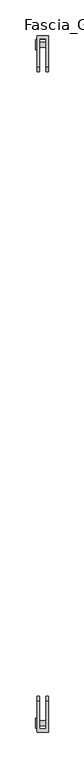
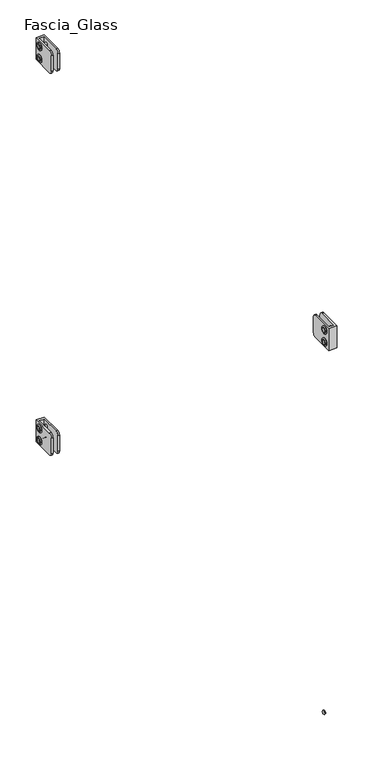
"""IFC4 building model written with IfcOpenShell, lengths in millimetres: railing geometry, Baluster-Excess-Fill-Straight-Panel-VIVA : Fascia_Glass."""

from ifc_helpers import new_model, si_unit, point, frame, origin, place, context, project, spatial, polyline, circle_curve, ellipse_curve, trimmed, outline, extrude, source, transform, mapped, element, save
from ifc_brep_helpers import plane_surface, cylinder_surface, revolved_surface, advanced_brep


def fascia_glass_efceab72(model_context):
    return source(origin(), model_context, "Body", "SolidModel", [
        extrude(outline(polyline([(17.3185433, 917.178125), (15.2715791, 913.6326791), (11.1776508, 913.6326791), (9.1306867, 917.178125), (11.1776508, 920.7235709), (15.2715791, 920.7235709), (17.3185433, 917.178125)])), frame((21.7024185, 0.0, 0.0), z_axis=(1.0, 0.0, 0.0), x_axis=(0.0, 1.0, 0.0)), (0.0, 0.0, 1.0), 1.4969696),
        advanced_brep(
        [(36.7665, 16.7700609, 917.178125), (36.7665, 9.6791691, 917.178125), (24.0665, 9.6791691, 917.178125), (24.0665, 16.7700609, 917.178125), (24.0665, 5.8168259, 917.178125), (24.0665, 20.6324041, 917.178125), (23.199388, 14.8806904, 917.178125), (23.199388, 11.5685396, 917.178125), (36.7665, 11.5685396, 917.178125), (36.7665, 14.8806904, 917.178125), (23.2316551, 20.6324041, 917.178125), (23.2316551, 5.8168259, 917.178125), (21.9503831, 7.0980979, 917.178125), (21.9503831, 19.351132, 917.178125), (21.9503831, 8.9260194, 917.178125), (21.9503831, 17.5232105, 917.178125), (23.199388, 8.9260194, 917.178125), (23.199388, 17.5232105, 917.178125)],
        [
            (0, 1, circle_curve(frame((36.7665, 13.224615, 917.178125), z_axis=(-1.0, 0.0, 0.0), x_axis=(0.0, -1.0, 0.0)), 3.5454459)),
            (1, 2),
            (2, 3, circle_curve(frame((24.0665, 13.224615, 917.178125), z_axis=(1.0, 0.0, 0.0), x_axis=(0.0, -1.0, 0.0)), 3.5454459)),
            (3, 0),
            (1, 0, circle_curve(frame((36.7665, 13.224615, 917.178125), z_axis=(-1.0, 0.0, 0.0), x_axis=(0.0, -1.0, 0.0)), 3.5454459)),
            (3, 2, circle_curve(frame((24.0665, 13.224615, 917.178125), z_axis=(1.0, 0.0, 0.0), x_axis=(0.0, -1.0, 0.0)), 3.5454459)),
            (2, 4),
            (4, 5, circle_curve(frame((24.0665, 13.224615, 917.178125), z_axis=(1.0, 0.0, 0.0), x_axis=(0.0, -1.0, 0.0)), 7.4077891)),
            (5, 3),
            (5, 4, circle_curve(frame((24.0665, 13.224615, 917.178125), z_axis=(1.0, 0.0, 0.0), x_axis=(0.0, -1.0, 0.0)), 7.4077891)),
            (6, 7, circle_curve(frame((23.199388, 13.224615, 917.178125), z_axis=(-1.0, 0.0, 0.0), x_axis=(0.0, -1.0, 0.0)), 1.6560754)),
            (7, 8),
            (8, 9, circle_curve(frame((36.7665, 13.224615, 917.178125), z_axis=(1.0, 0.0, 0.0), x_axis=(0.0, -1.0, 0.0)), 1.6560754)),
            (9, 6),
            (7, 6, circle_curve(frame((23.199388, 13.224615, 917.178125), z_axis=(-1.0, 0.0, 0.0), x_axis=(0.0, -1.0, 0.0)), 1.6560754)),
            (9, 8, circle_curve(frame((36.7665, 13.224615, 917.178125), z_axis=(1.0, 0.0, 0.0), x_axis=(0.0, -1.0, 0.0)), 1.6560754)),
            (10, 11, circle_curve(frame((23.2316551, 13.224615, 917.178125), z_axis=(-1.0, 0.0, 0.0), x_axis=(0.0, -1.0, 0.0)), 7.4077891)),
            (11, 12, circle_curve(frame((23.2316551, 7.0980979, 917.178125), z_axis=(0.0, 0.0, -1.0), x_axis=(0.0, -1.0, 0.0)), 1.281272)),
            (12, 13, circle_curve(frame((21.9503831, 13.224615, 917.178125), z_axis=(1.0, 0.0, 0.0), x_axis=(0.0, -1.0, 0.0)), 6.1265171)),
            (13, 10, circle_curve(frame((23.2316551, 19.351132, 917.178125), z_axis=(0.0, 0.0, -1.0), x_axis=(0.0, 1.0, 0.0)), 1.281272)),
            (11, 10, circle_curve(frame((23.2316551, 13.224615, 917.178125), z_axis=(-1.0, 0.0, 0.0), x_axis=(0.0, -1.0, 0.0)), 7.4077891)),
            (13, 12, circle_curve(frame((21.9503831, 13.224615, 917.178125), z_axis=(1.0, 0.0, 0.0), x_axis=(0.0, -1.0, 0.0)), 6.1265171)),
            (12, 14),
            (14, 15, circle_curve(frame((21.9503831, 13.224615, 917.178125), z_axis=(1.0, 0.0, 0.0), x_axis=(0.0, -1.0, 0.0)), 4.2985955)),
            (15, 13),
            (15, 14, circle_curve(frame((21.9503831, 13.224615, 917.178125), z_axis=(1.0, 0.0, 0.0), x_axis=(0.0, -1.0, 0.0)), 4.2985955)),
            (4, 11),
            (10, 5),
            (8, 1),
            (0, 9),
            (14, 16),
            (16, 17, circle_curve(frame((23.199388, 13.224615, 917.178125), z_axis=(1.0, 0.0, 0.0), x_axis=(0.0, -1.0, 0.0)), 4.2985955)),
            (17, 15),
            (17, 16, circle_curve(frame((23.199388, 13.224615, 917.178125), z_axis=(1.0, 0.0, 0.0), x_axis=(0.0, -1.0, 0.0)), 4.2985955)),
            (16, 7),
            (6, 17),
        ],
        [
            cylinder_surface(frame((27.5632331, 13.224615, 917.178125), z_axis=(1.0, 0.0, 0.0), x_axis=(0.0, -1.0, 0.0)), 3.5454459),
            plane_surface(frame((24.0665, 13.224615, 917.178125), z_axis=(1.0, 0.0, 0.0), x_axis=(0.0, -1.0, 0.0))),
            revolved_surface(polyline([(36.7665, 11.5685396, 917.178125), (23.199388, 11.5685396, 917.178125)]), (27.5632331, 13.224615, 917.178125), (1.0, 0.0, 0.0)),
            revolved_surface(trimmed(ellipse_curve(frame((23.2316551, 7.0980979, 917.178125), z_axis=(0.0, 0.0, 1.0), x_axis=(0.0, -1.0, 0.0)), 1.281272, 1.281272), [point((21.9503831, 7.0980979, 917.178125))], [point((23.2316551, 5.8168259, 917.178125))], True, "CARTESIAN"), (27.5632331, 13.224615, 917.178125), (1.0, 0.0, 0.0)),
            plane_surface(frame((21.9503831, 13.224615, 917.178125), z_axis=(-1.0, 0.0, 0.0), x_axis=(0.0, -1.0, 0.0))),
            cylinder_surface(frame((27.5632331, 13.224615, 917.178125), z_axis=(1.0, 0.0, 0.0), x_axis=(0.0, -1.0, 0.0)), 7.4077891),
            plane_surface(frame((36.7665, 13.224615, 917.178125), z_axis=(1.0, 0.0, 0.0), x_axis=(0.0, -1.0, 0.0))),
            revolved_surface(polyline([(23.199388, 8.926019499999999, 917.178125), (21.9503831, 8.926019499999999, 917.178125)]), (27.5632331, 13.224615, 917.178125), (1.0, 0.0, 0.0)),
            plane_surface(frame((23.199388, 13.224615, 917.178125), z_axis=(-1.0, 0.0, 0.0), x_axis=(0.0, -1.0, 0.0))),
        ],
        [
            (0, [[1, 2, 3, 4]]),
            (0, [[5, -4, 6, -2]]),
            (1, [[-3, 7, 8, 9]]),
            (1, [[-6, -9, 10, -7]]),
            (2, [[11, 12, 13, 14]]),
            (2, [[15, -14, 16, -12]]),
            (3, [[17, 18, 19, 20]]),
            (3, [[21, -20, 22, -18]]),
            (4, [[-19, 23, 24, 25]]),
            (4, [[-22, -25, 26, -23]]),
            (5, [[-8, 27, -17, 28]]),
            (5, [[-10, -28, -21, -27]]),
            (6, [[-13, 29, -1, 30]]),
            (6, [[-16, -30, -5, -29]]),
            (7, [[-24, 31, 32, 33]]),
            (7, [[-26, -33, 34, -31]]),
            (8, [[-32, 35, -11, 36]]),
            (8, [[-34, -36, -15, -35]]),
        ],
    ),
        advanced_brep(
        [(36.7665, 16.7700609, 892.571875), (36.7665, 9.6791691, 892.571875), (24.0665, 9.6791691, 892.571875), (24.0665, 16.7700609, 892.571875), (24.0665, 5.8168259, 892.571875), (24.0665, 20.6324041, 892.571875), (23.199388, 14.8806904, 892.571875), (23.199388, 11.5685396, 892.571875), (36.7665, 11.5685396, 892.571875), (36.7665, 14.8806904, 892.571875), (23.2316551, 20.6324041, 892.571875), (23.2316551, 5.8168259, 892.571875), (21.9503831, 7.0980979, 892.571875), (21.9503831, 19.351132, 892.571875), (21.9503831, 8.9260194, 892.571875), (21.9503831, 17.5232105, 892.571875), (23.199388, 8.9260194, 892.571875), (23.199388, 17.5232105, 892.571875)],
        [
            (0, 1, circle_curve(frame((36.7665, 13.224615, 892.571875), z_axis=(-1.0, 0.0, 0.0), x_axis=(0.0, -1.0, 0.0)), 3.5454459)),
            (1, 2),
            (2, 3, circle_curve(frame((24.0665, 13.224615, 892.571875), z_axis=(1.0, 0.0, 0.0), x_axis=(0.0, -1.0, 0.0)), 3.5454459)),
            (3, 0),
            (1, 0, circle_curve(frame((36.7665, 13.224615, 892.571875), z_axis=(-1.0, 0.0, 0.0), x_axis=(0.0, -1.0, 0.0)), 3.5454459)),
            (3, 2, circle_curve(frame((24.0665, 13.224615, 892.571875), z_axis=(1.0, 0.0, 0.0), x_axis=(0.0, -1.0, 0.0)), 3.5454459)),
            (2, 4),
            (4, 5, circle_curve(frame((24.0665, 13.224615, 892.571875), z_axis=(1.0, 0.0, 0.0), x_axis=(0.0, -1.0, 0.0)), 7.4077891)),
            (5, 3),
            (5, 4, circle_curve(frame((24.0665, 13.224615, 892.571875), z_axis=(1.0, 0.0, 0.0), x_axis=(0.0, -1.0, 0.0)), 7.4077891)),
            (6, 7, circle_curve(frame((23.199388, 13.224615, 892.571875), z_axis=(-1.0, 0.0, 0.0), x_axis=(0.0, -1.0, 0.0)), 1.6560754)),
            (7, 8),
            (8, 9, circle_curve(frame((36.7665, 13.224615, 892.571875), z_axis=(1.0, 0.0, 0.0), x_axis=(0.0, -1.0, 0.0)), 1.6560754)),
            (9, 6),
            (7, 6, circle_curve(frame((23.199388, 13.224615, 892.571875), z_axis=(-1.0, 0.0, 0.0), x_axis=(0.0, -1.0, 0.0)), 1.6560754)),
            (9, 8, circle_curve(frame((36.7665, 13.224615, 892.571875), z_axis=(1.0, 0.0, 0.0), x_axis=(0.0, -1.0, 0.0)), 1.6560754)),
            (10, 11, circle_curve(frame((23.2316551, 13.224615, 892.571875), z_axis=(-1.0, 0.0, 0.0), x_axis=(0.0, -1.0, 0.0)), 7.4077891)),
            (11, 12, circle_curve(frame((23.2316551, 7.0980979, 892.571875), z_axis=(0.0, 0.0, -1.0), x_axis=(0.0, -1.0, 0.0)), 1.281272)),
            (12, 13, circle_curve(frame((21.9503831, 13.224615, 892.571875), z_axis=(1.0, 0.0, 0.0), x_axis=(0.0, -1.0, 0.0)), 6.1265171)),
            (13, 10, circle_curve(frame((23.2316551, 19.351132, 892.571875), z_axis=(0.0, 0.0, -1.0), x_axis=(0.0, 1.0, 0.0)), 1.281272)),
            (11, 10, circle_curve(frame((23.2316551, 13.224615, 892.571875), z_axis=(-1.0, 0.0, 0.0), x_axis=(0.0, -1.0, 0.0)), 7.4077891)),
            (13, 12, circle_curve(frame((21.9503831, 13.224615, 892.571875), z_axis=(1.0, 0.0, 0.0), x_axis=(0.0, -1.0, 0.0)), 6.1265171)),
            (12, 14),
            (14, 15, circle_curve(frame((21.9503831, 13.224615, 892.571875), z_axis=(1.0, 0.0, 0.0), x_axis=(0.0, -1.0, 0.0)), 4.2985955)),
            (15, 13),
            (15, 14, circle_curve(frame((21.9503831, 13.224615, 892.571875), z_axis=(1.0, 0.0, 0.0), x_axis=(0.0, -1.0, 0.0)), 4.2985955)),
            (8, 1),
            (0, 9),
            (4, 11),
            (10, 5),
            (14, 16),
            (16, 17, circle_curve(frame((23.199388, 13.224615, 892.571875), z_axis=(1.0, 0.0, 0.0), x_axis=(0.0, -1.0, 0.0)), 4.2985955)),
            (17, 15),
            (17, 16, circle_curve(frame((23.199388, 13.224615, 892.571875), z_axis=(1.0, 0.0, 0.0), x_axis=(0.0, -1.0, 0.0)), 4.2985955)),
            (16, 7),
            (6, 17),
        ],
        [
            cylinder_surface(frame((27.5632331, 13.224615, 892.571875), z_axis=(1.0, 0.0, 0.0), x_axis=(0.0, -1.0, 0.0)), 3.5454459),
            plane_surface(frame((24.0665, 13.224615, 892.571875), z_axis=(1.0, 0.0, 0.0), x_axis=(0.0, -1.0, 0.0))),
            revolved_surface(polyline([(36.7665, 11.5685396, 892.571875), (23.199388, 11.5685396, 892.571875)]), (27.5632331, 13.224615, 892.571875), (1.0, 0.0, 0.0)),
            revolved_surface(trimmed(ellipse_curve(frame((23.2316551, 7.0980979, 892.571875), z_axis=(0.0, 0.0, 1.0), x_axis=(0.0, -1.0, 0.0)), 1.281272, 1.281272), [point((21.9503831, 7.0980979, 892.571875))], [point((23.2316551, 5.8168259, 892.571875))], True, "CARTESIAN"), (27.5632331, 13.224615, 892.571875), (1.0, 0.0, 0.0)),
            plane_surface(frame((21.9503831, 13.224615, 892.571875), z_axis=(-1.0, 0.0, 0.0), x_axis=(0.0, -1.0, 0.0))),
            plane_surface(frame((36.7665, 13.224615, 892.571875), z_axis=(1.0, 0.0, 0.0), x_axis=(0.0, -1.0, 0.0))),
            cylinder_surface(frame((27.5632331, 13.224615, 892.571875), z_axis=(1.0, 0.0, 0.0), x_axis=(0.0, -1.0, 0.0)), 7.4077891),
            revolved_surface(polyline([(23.199388, 8.926019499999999, 892.571875), (21.9503831, 8.926019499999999, 892.571875)]), (27.5632331, 13.224615, 892.571875), (1.0, 0.0, 0.0)),
            plane_surface(frame((23.199388, 13.224615, 892.571875), z_axis=(-1.0, 0.0, 0.0), x_axis=(0.0, -1.0, 0.0))),
        ],
        [
            (0, [[1, 2, 3, 4]]),
            (0, [[5, -4, 6, -2]]),
            (1, [[-3, 7, 8, 9]]),
            (1, [[-6, -9, 10, -7]]),
            (2, [[11, 12, 13, 14]]),
            (2, [[15, -14, 16, -12]]),
            (3, [[17, 18, 19, 20]]),
            (3, [[21, -20, 22, -18]]),
            (4, [[-19, 23, 24, 25]]),
            (4, [[-22, -25, 26, -23]]),
            (5, [[-13, 27, -1, 28]]),
            (5, [[-16, -28, -5, -27]]),
            (6, [[-8, 29, -17, 30]]),
            (6, [[-10, -30, -21, -29]]),
            (7, [[-24, 31, 32, 33]]),
            (7, [[-26, -33, 34, -31]]),
            (8, [[-32, 35, -11, 36]]),
            (8, [[-34, -36, -15, -35]]),
        ],
    ),
        extrude(outline(polyline([(17.3185433, 892.571875), (15.2715791, 889.0264291), (11.1776508, 889.0264291), (9.1306867, 892.571875), (11.1776508, 896.1173209), (15.2715791, 896.1173209), (17.3185433, 892.571875)])), frame((21.7024185, 0.0, 0.0), z_axis=(1.0, 0.0, 0.0), x_axis=(0.0, 1.0, 0.0)), (0.0, 0.0, 1.0), 1.4969696),
        advanced_brep(
        [(24.0665, 25.8579597, 927.1), (24.0665, 25.8579597, 882.65), (24.0665, -18.5920403, 882.65), (24.0665, -24.9420403, 889.0), (24.0665, -24.9420403, 920.75), (24.0665, -18.5920403, 927.1), (39.9415, 25.8579597, 927.1), (39.9415, -18.5920403, 927.1), (39.9415, -24.9420403, 920.75), (39.9415, -24.9420403, 889.0), (39.9415, -18.5920403, 882.65), (39.9415, 25.8579597, 882.65), (36.7665, -18.5920403, 882.65), (36.7665, 21.1398793, 882.65), (27.2415, 21.1398793, 882.65), (27.2415, -18.5920403, 882.65), (36.7665, 21.1398793, 927.1), (27.2415, 21.1398793, 927.1), (27.2415, -18.5920403, 927.1), (27.2415, -24.9420403, 920.75), (27.2415, -24.9420403, 889.0), (36.7665, -24.9420403, 889.0), (36.7665, -24.9420403, 920.75), (36.7665, -18.5920403, 927.1)],
        [
            (0, 1),
            (1, 2),
            (2, 3, circle_curve(frame((24.0665, -18.5920403, 889.0), z_axis=(-1.0, 0.0, 0.0), x_axis=(0.0, -1.0, 0.0)), 6.35)),
            (3, 4),
            (4, 5, circle_curve(frame((24.0665, -18.5920403, 920.75), z_axis=(-1.0, 0.0, 0.0), x_axis=(0.0, -1.0, 0.0)), 6.35)),
            (5, 0),
            (6, 7),
            (7, 8, circle_curve(frame((39.9415, -18.5920403, 920.75), z_axis=(1.0, 0.0, 0.0), x_axis=(0.0, -1.0, 0.0)), 6.35)),
            (8, 9),
            (9, 10, circle_curve(frame((39.9415, -18.5920403, 889.0), z_axis=(1.0, 0.0, 0.0), x_axis=(0.0, -1.0, 0.0)), 6.35)),
            (10, 11),
            (11, 6),
            (0, 6),
            (11, 1),
            (10, 12),
            (12, 13),
            (13, 14),
            (14, 15),
            (15, 2),
            (13, 16),
            (16, 17),
            (17, 14),
            (17, 18),
            (18, 19, circle_curve(frame((27.2415, -18.5920403, 920.75), z_axis=(1.0, 0.0, 0.0), x_axis=(0.0, -1.0, 0.0)), 6.35)),
            (19, 20),
            (20, 15, circle_curve(frame((27.2415, -18.5920403, 889.0), z_axis=(1.0, 0.0, 0.0), x_axis=(0.0, -1.0, 0.0)), 6.35)),
            (12, 21, circle_curve(frame((36.7665, -18.5920403, 889.0), z_axis=(-1.0, 0.0, 0.0), x_axis=(0.0, -1.0, 0.0)), 6.35)),
            (21, 22),
            (22, 23, circle_curve(frame((36.7665, -18.5920403, 920.75), z_axis=(-1.0, 0.0, 0.0), x_axis=(0.0, -1.0, 0.0)), 6.35)),
            (23, 16),
            (20, 3),
            (9, 21),
            (19, 4),
            (8, 22),
            (18, 5),
            (7, 23),
        ],
        [
            plane_surface(frame((24.0665, 25.8579597, 882.65), z_axis=(-1.0, 0.0, 0.0), x_axis=(0.0, 0.0, -1.0))),
            plane_surface(frame((39.9415, 25.8579597, 882.65), z_axis=(1.0, 0.0, 0.0), x_axis=(0.0, 0.0, 1.0))),
            plane_surface(frame((24.0665, 25.8579597, 927.1), z_axis=(0.0, 1.0, 0.0), x_axis=(1.0, 0.0, 0.0))),
            plane_surface(frame((24.0665, 25.8579597, 882.65), z_axis=(0.0, 0.0, -1.0), x_axis=(1.0, 0.0, 0.0))),
            plane_surface(frame((36.7665, 21.1398793, 939.8), z_axis=(0.0, -1.0, 0.0), x_axis=(0.0, 0.0, -1.0))),
            plane_surface(frame((27.2415, 21.1398793, 939.8), z_axis=(1.0, 0.0, 0.0), x_axis=(0.0, 0.0, -1.0))),
            plane_surface(frame((36.7665, -37.6420403, 939.8), z_axis=(-1.0, 0.0, 0.0), x_axis=(0.0, 0.0, -1.0))),
            cylinder_surface(frame((39.9415, -18.5920403, 889.0), z_axis=(-1.0, 0.0, 0.0), x_axis=(0.0, -1.0, 0.0)), 6.35),
            plane_surface(frame((24.0665, -24.9420403, 889.0), z_axis=(0.0, -1.0, 0.0), x_axis=(1.0, 0.0, 0.0))),
            cylinder_surface(frame((39.9415, -18.5920403, 920.75), z_axis=(-1.0, 0.0, 0.0), x_axis=(0.0, -1.0, 0.0)), 6.35),
            plane_surface(frame((24.0665, -18.5920403, 927.1), z_axis=(0.0, 0.0, 1.0), x_axis=(1.0, 0.0, 0.0))),
        ],
        [
            (0, [[1, 2, 3, 4, 5, 6]]),
            (1, [[7, 8, 9, 10, 11, 12]]),
            (2, [[-1, 13, -12, 14]]),
            (3, [[-2, -14, -11, 15, 16, 17, 18, 19]]),
            (4, [[20, 21, 22, -17]]),
            (5, [[-22, 23, 24, 25, 26, -18]]),
            (6, [[-20, -16, 27, 28, 29, 30]]),
            (7, [[-3, -19, -26, 31]]),
            (7, [[-10, 32, -27, -15]]),
            (8, [[-4, -31, -25, 33]]),
            (8, [[-9, 34, -28, -32]]),
            (9, [[-5, -33, -24, 35]]),
            (9, [[-8, 36, -29, -34]]),
            (10, [[-6, -35, -23, -21, -30, -36, -7, -13]]),
        ],
    ),
        extrude(outline(polyline([(17.3185433, 138.7358896), (15.2715791, 135.1904437), (11.1776508, 135.1904437), (9.1306867, 138.7358896), (11.1776508, 142.2813355), (15.2715791, 142.2813355), (17.3185433, 138.7358896)])), frame((21.7024185, 0.0, 0.0), z_axis=(1.0, 0.0, 0.0), x_axis=(0.0, 1.0, 0.0)), (0.0, 0.0, 1.0), 1.4969696),
        advanced_brep(
        [(36.7665, 16.7700609, 138.7358896), (36.7665, 9.6791691, 138.7358896), (24.0665, 9.6791691, 138.7358896), (24.0665, 16.7700609, 138.7358896), (24.0665, 5.8168259, 138.7358896), (24.0665, 20.6324041, 138.7358896), (23.199388, 14.8806904, 138.7358896), (23.199388, 11.5685396, 138.7358896), (36.7665, 11.5685396, 138.7358896), (36.7665, 14.8806904, 138.7358896), (23.2316551, 20.6324041, 138.7358896), (23.2316551, 5.8168259, 138.7358896), (21.9503831, 7.0980979, 138.7358896), (21.9503831, 19.351132, 138.7358896), (21.9503831, 8.9260194, 138.7358896), (21.9503831, 17.5232105, 138.7358896), (23.199388, 8.9260194, 138.7358896), (23.199388, 17.5232105, 138.7358896)],
        [
            (0, 1, circle_curve(frame((36.7665, 13.224615, 138.7358896), z_axis=(-1.0, 0.0, 0.0), x_axis=(0.0, -1.0, 0.0)), 3.5454459)),
            (1, 2),
            (2, 3, circle_curve(frame((24.0665, 13.224615, 138.7358896), z_axis=(1.0, 0.0, 0.0), x_axis=(0.0, -1.0, 0.0)), 3.5454459)),
            (3, 0),
            (1, 0, circle_curve(frame((36.7665, 13.224615, 138.7358896), z_axis=(-1.0, 0.0, 0.0), x_axis=(0.0, -1.0, 0.0)), 3.5454459)),
            (3, 2, circle_curve(frame((24.0665, 13.224615, 138.7358896), z_axis=(1.0, 0.0, 0.0), x_axis=(0.0, -1.0, 0.0)), 3.5454459)),
            (2, 4),
            (4, 5, circle_curve(frame((24.0665, 13.224615, 138.7358896), z_axis=(1.0, 0.0, 0.0), x_axis=(0.0, -1.0, 0.0)), 7.4077891)),
            (5, 3),
            (5, 4, circle_curve(frame((24.0665, 13.224615, 138.7358896), z_axis=(1.0, 0.0, 0.0), x_axis=(0.0, -1.0, 0.0)), 7.4077891)),
            (6, 7, circle_curve(frame((23.199388, 13.224615, 138.7358896), z_axis=(-1.0, 0.0, 0.0), x_axis=(0.0, -1.0, 0.0)), 1.6560754)),
            (7, 8),
            (8, 9, circle_curve(frame((36.7665, 13.224615, 138.7358896), z_axis=(1.0, 0.0, 0.0), x_axis=(0.0, -1.0, 0.0)), 1.6560754)),
            (9, 6),
            (7, 6, circle_curve(frame((23.199388, 13.224615, 138.7358896), z_axis=(-1.0, 0.0, 0.0), x_axis=(0.0, -1.0, 0.0)), 1.6560754)),
            (9, 8, circle_curve(frame((36.7665, 13.224615, 138.7358896), z_axis=(1.0, 0.0, 0.0), x_axis=(0.0, -1.0, 0.0)), 1.6560754)),
            (10, 11, circle_curve(frame((23.2316551, 13.224615, 138.7358896), z_axis=(-1.0, 0.0, 0.0), x_axis=(0.0, -1.0, 0.0)), 7.4077891)),
            (11, 12, circle_curve(frame((23.2316551, 7.0980979, 138.7358896), z_axis=(0.0, 0.0, -1.0), x_axis=(0.0, -1.0, 0.0)), 1.281272)),
            (12, 13, circle_curve(frame((21.9503831, 13.224615, 138.7358896), z_axis=(1.0, 0.0, 0.0), x_axis=(0.0, -1.0, 0.0)), 6.1265171)),
            (13, 10, circle_curve(frame((23.2316551, 19.351132, 138.7358896), z_axis=(0.0, 0.0, -1.0), x_axis=(0.0, 1.0, 0.0)), 1.281272)),
            (11, 10, circle_curve(frame((23.2316551, 13.224615, 138.7358896), z_axis=(-1.0, 0.0, 0.0), x_axis=(0.0, -1.0, 0.0)), 7.4077891)),
            (13, 12, circle_curve(frame((21.9503831, 13.224615, 138.7358896), z_axis=(1.0, 0.0, 0.0), x_axis=(0.0, -1.0, 0.0)), 6.1265171)),
            (12, 14),
            (14, 15, circle_curve(frame((21.9503831, 13.224615, 138.7358896), z_axis=(1.0, 0.0, 0.0), x_axis=(0.0, -1.0, 0.0)), 4.2985955)),
            (15, 13),
            (15, 14, circle_curve(frame((21.9503831, 13.224615, 138.7358896), z_axis=(1.0, 0.0, 0.0), x_axis=(0.0, -1.0, 0.0)), 4.2985955)),
            (4, 11),
            (10, 5),
            (8, 1),
            (0, 9),
            (14, 16),
            (16, 17, circle_curve(frame((23.199388, 13.224615, 138.7358896), z_axis=(1.0, 0.0, 0.0), x_axis=(0.0, -1.0, 0.0)), 4.2985955)),
            (17, 15),
            (17, 16, circle_curve(frame((23.199388, 13.224615, 138.7358896), z_axis=(1.0, 0.0, 0.0), x_axis=(0.0, -1.0, 0.0)), 4.2985955)),
            (16, 7),
            (6, 17),
        ],
        [
            cylinder_surface(frame((27.5632331, 13.224615, 138.7358896), z_axis=(1.0, 0.0, 0.0), x_axis=(0.0, -1.0, 0.0)), 3.5454459),
            plane_surface(frame((24.0665, 13.224615, 138.7358896), z_axis=(1.0, 0.0, 0.0), x_axis=(0.0, -1.0, 0.0))),
            revolved_surface(polyline([(36.7665, 11.5685396, 138.7358896), (23.199388, 11.5685396, 138.7358896)]), (27.5632331, 13.224615, 138.7358896), (1.0, 0.0, 0.0)),
            revolved_surface(trimmed(ellipse_curve(frame((23.2316551, 7.0980979, 138.7358896), z_axis=(0.0, 0.0, 1.0), x_axis=(0.0, -1.0, 0.0)), 1.281272, 1.281272), [point((21.9503831, 7.0980979, 138.7358896))], [point((23.2316551, 5.8168259, 138.7358896))], True, "CARTESIAN"), (27.5632331, 13.224615, 138.7358896), (1.0, 0.0, 0.0)),
            plane_surface(frame((21.9503831, 13.224615, 138.7358896), z_axis=(-1.0, 0.0, 0.0), x_axis=(0.0, -1.0, 0.0))),
            cylinder_surface(frame((27.5632331, 13.224615, 138.7358896), z_axis=(1.0, 0.0, 0.0), x_axis=(0.0, -1.0, 0.0)), 7.4077891),
            plane_surface(frame((36.7665, 13.224615, 138.7358896), z_axis=(1.0, 0.0, 0.0), x_axis=(0.0, -1.0, 0.0))),
            revolved_surface(polyline([(23.199388, 8.926019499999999, 138.7358896), (21.9503831, 8.926019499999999, 138.7358896)]), (27.5632331, 13.224615, 138.7358896), (1.0, 0.0, 0.0)),
            plane_surface(frame((23.199388, 13.224615, 138.7358896), z_axis=(-1.0, 0.0, 0.0), x_axis=(0.0, -1.0, 0.0))),
        ],
        [
            (0, [[1, 2, 3, 4]]),
            (0, [[5, -4, 6, -2]]),
            (1, [[-3, 7, 8, 9]]),
            (1, [[-6, -9, 10, -7]]),
            (2, [[11, 12, 13, 14]]),
            (2, [[15, -14, 16, -12]]),
            (3, [[17, 18, 19, 20]]),
            (3, [[21, -20, 22, -18]]),
            (4, [[-19, 23, 24, 25]]),
            (4, [[-22, -25, 26, -23]]),
            (5, [[-8, 27, -17, 28]]),
            (5, [[-10, -28, -21, -27]]),
            (6, [[-13, 29, -1, 30]]),
            (6, [[-16, -30, -5, -29]]),
            (7, [[-24, 31, 32, 33]]),
            (7, [[-26, -33, 34, -31]]),
            (8, [[-32, 35, -11, 36]]),
            (8, [[-34, -36, -15, -35]]),
        ],
    ),
        advanced_brep(
        [(36.7665, 16.7700609, 114.1296396), (36.7665, 9.6791691, 114.1296396), (24.0665, 9.6791691, 114.1296396), (24.0665, 16.7700609, 114.1296396), (24.0665, 5.8168259, 114.1296396), (24.0665, 20.6324041, 114.1296396), (23.199388, 14.8806904, 114.1296396), (23.199388, 11.5685396, 114.1296396), (36.7665, 11.5685396, 114.1296396), (36.7665, 14.8806904, 114.1296396), (23.2316551, 20.6324041, 114.1296396), (23.2316551, 5.8168259, 114.1296396), (21.9503831, 7.0980979, 114.1296396), (21.9503831, 19.351132, 114.1296396), (21.9503831, 8.9260194, 114.1296396), (21.9503831, 17.5232105, 114.1296396), (23.199388, 8.9260194, 114.1296396), (23.199388, 17.5232105, 114.1296396)],
        [
            (0, 1, circle_curve(frame((36.7665, 13.224615, 114.1296396), z_axis=(-1.0, 0.0, 0.0), x_axis=(0.0, -1.0, 0.0)), 3.5454459)),
            (1, 2),
            (2, 3, circle_curve(frame((24.0665, 13.224615, 114.1296396), z_axis=(1.0, 0.0, 0.0), x_axis=(0.0, -1.0, 0.0)), 3.5454459)),
            (3, 0),
            (1, 0, circle_curve(frame((36.7665, 13.224615, 114.1296396), z_axis=(-1.0, 0.0, 0.0), x_axis=(0.0, -1.0, 0.0)), 3.5454459)),
            (3, 2, circle_curve(frame((24.0665, 13.224615, 114.1296396), z_axis=(1.0, 0.0, 0.0), x_axis=(0.0, -1.0, 0.0)), 3.5454459)),
            (2, 4),
            (4, 5, circle_curve(frame((24.0665, 13.224615, 114.1296396), z_axis=(1.0, 0.0, 0.0), x_axis=(0.0, -1.0, 0.0)), 7.4077891)),
            (5, 3),
            (5, 4, circle_curve(frame((24.0665, 13.224615, 114.1296396), z_axis=(1.0, 0.0, 0.0), x_axis=(0.0, -1.0, 0.0)), 7.4077891)),
            (6, 7, circle_curve(frame((23.199388, 13.224615, 114.1296396), z_axis=(-1.0, 0.0, 0.0), x_axis=(0.0, -1.0, 0.0)), 1.6560754)),
            (7, 8),
            (8, 9, circle_curve(frame((36.7665, 13.224615, 114.1296396), z_axis=(1.0, 0.0, 0.0), x_axis=(0.0, -1.0, 0.0)), 1.6560754)),
            (9, 6),
            (7, 6, circle_curve(frame((23.199388, 13.224615, 114.1296396), z_axis=(-1.0, 0.0, 0.0), x_axis=(0.0, -1.0, 0.0)), 1.6560754)),
            (9, 8, circle_curve(frame((36.7665, 13.224615, 114.1296396), z_axis=(1.0, 0.0, 0.0), x_axis=(0.0, -1.0, 0.0)), 1.6560754)),
            (10, 11, circle_curve(frame((23.2316551, 13.224615, 114.1296396), z_axis=(-1.0, 0.0, 0.0), x_axis=(0.0, -1.0, 0.0)), 7.4077891)),
            (11, 12, circle_curve(frame((23.2316551, 7.0980979, 114.1296396), z_axis=(0.0, 0.0, -1.0), x_axis=(0.0, -1.0, 0.0)), 1.281272)),
            (12, 13, circle_curve(frame((21.9503831, 13.224615, 114.1296396), z_axis=(1.0, 0.0, 0.0), x_axis=(0.0, -1.0, 0.0)), 6.1265171)),
            (13, 10, circle_curve(frame((23.2316551, 19.351132, 114.1296396), z_axis=(0.0, 0.0, -1.0), x_axis=(0.0, 1.0, 0.0)), 1.281272)),
            (11, 10, circle_curve(frame((23.2316551, 13.224615, 114.1296396), z_axis=(-1.0, 0.0, 0.0), x_axis=(0.0, -1.0, 0.0)), 7.4077891)),
            (13, 12, circle_curve(frame((21.9503831, 13.224615, 114.1296396), z_axis=(1.0, 0.0, 0.0), x_axis=(0.0, -1.0, 0.0)), 6.1265171)),
            (12, 14),
            (14, 15, circle_curve(frame((21.9503831, 13.224615, 114.1296396), z_axis=(1.0, 0.0, 0.0), x_axis=(0.0, -1.0, 0.0)), 4.2985955)),
            (15, 13),
            (15, 14, circle_curve(frame((21.9503831, 13.224615, 114.1296396), z_axis=(1.0, 0.0, 0.0), x_axis=(0.0, -1.0, 0.0)), 4.2985955)),
            (8, 1),
            (0, 9),
            (4, 11),
            (10, 5),
            (14, 16),
            (16, 17, circle_curve(frame((23.199388, 13.224615, 114.1296396), z_axis=(1.0, 0.0, 0.0), x_axis=(0.0, -1.0, 0.0)), 4.2985955)),
            (17, 15),
            (17, 16, circle_curve(frame((23.199388, 13.224615, 114.1296396), z_axis=(1.0, 0.0, 0.0), x_axis=(0.0, -1.0, 0.0)), 4.2985955)),
            (16, 7),
            (6, 17),
        ],
        [
            cylinder_surface(frame((27.5632331, 13.224615, 114.1296396), z_axis=(1.0, 0.0, 0.0), x_axis=(0.0, -1.0, 0.0)), 3.5454459),
            plane_surface(frame((24.0665, 13.224615, 114.1296396), z_axis=(1.0, 0.0, 0.0), x_axis=(0.0, -1.0, 0.0))),
            revolved_surface(polyline([(36.7665, 11.5685396, 114.1296396), (23.199388, 11.5685396, 114.1296396)]), (27.5632331, 13.224615, 114.1296396), (1.0, 0.0, 0.0)),
            revolved_surface(trimmed(ellipse_curve(frame((23.2316551, 7.0980979, 114.1296396), z_axis=(0.0, 0.0, 1.0), x_axis=(0.0, -1.0, 0.0)), 1.281272, 1.281272), [point((21.9503831, 7.0980979, 114.1296396))], [point((23.2316551, 5.8168259, 114.1296396))], True, "CARTESIAN"), (27.5632331, 13.224615, 114.1296396), (1.0, 0.0, 0.0)),
            plane_surface(frame((21.9503831, 13.224615, 114.1296396), z_axis=(-1.0, 0.0, 0.0), x_axis=(0.0, -1.0, 0.0))),
            plane_surface(frame((36.7665, 13.224615, 114.1296396), z_axis=(1.0, 0.0, 0.0), x_axis=(0.0, -1.0, 0.0))),
            cylinder_surface(frame((27.5632331, 13.224615, 114.1296396), z_axis=(1.0, 0.0, 0.0), x_axis=(0.0, -1.0, 0.0)), 7.4077891),
            revolved_surface(polyline([(23.199388, 8.926019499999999, 114.1296396), (21.9503831, 8.926019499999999, 114.1296396)]), (27.5632331, 13.224615, 114.1296396), (1.0, 0.0, 0.0)),
            plane_surface(frame((23.199388, 13.224615, 114.1296396), z_axis=(-1.0, 0.0, 0.0), x_axis=(0.0, -1.0, 0.0))),
        ],
        [
            (0, [[1, 2, 3, 4]]),
            (0, [[5, -4, 6, -2]]),
            (1, [[-3, 7, 8, 9]]),
            (1, [[-6, -9, 10, -7]]),
            (2, [[11, 12, 13, 14]]),
            (2, [[15, -14, 16, -12]]),
            (3, [[17, 18, 19, 20]]),
            (3, [[21, -20, 22, -18]]),
            (4, [[-19, 23, 24, 25]]),
            (4, [[-22, -25, 26, -23]]),
            (5, [[-13, 27, -1, 28]]),
            (5, [[-16, -28, -5, -27]]),
            (6, [[-8, 29, -17, 30]]),
            (6, [[-10, -30, -21, -29]]),
            (7, [[-24, 31, 32, 33]]),
            (7, [[-26, -33, 34, -31]]),
            (8, [[-32, 35, -11, 36]]),
            (8, [[-34, -36, -15, -35]]),
        ],
    ),
        extrude(outline(polyline([(17.3185433, 114.1296396), (15.2715791, 110.5841937), (11.1776508, 110.5841937), (9.1306867, 114.1296396), (11.1776508, 117.6750855), (15.2715791, 117.6750855), (17.3185433, 114.1296396)])), frame((21.7024185, 0.0, 0.0), z_axis=(1.0, 0.0, 0.0), x_axis=(0.0, 1.0, 0.0)), (0.0, 0.0, 1.0), 1.4969696),
        advanced_brep(
        [(24.0665, 25.8579597, 148.6577646), (24.0665, 25.8579597, 104.2077646), (24.0665, -18.5920403, 104.2077646), (24.0665, -24.9420403, 110.5577646), (24.0665, -24.9420403, 142.3077646), (24.0665, -18.5920403, 148.6577646), (39.9415, 25.8579597, 148.6577646), (39.9415, -18.5920403, 148.6577646), (39.9415, -24.9420403, 142.3077646), (39.9415, -24.9420403, 110.5577646), (39.9415, -18.5920403, 104.2077646), (39.9415, 25.8579597, 104.2077646), (36.7665, -18.5920403, 104.2077646), (36.7665, 21.1398793, 104.2077646), (27.2415, 21.1398793, 104.2077646), (27.2415, -18.5920403, 104.2077646), (36.7665, 21.1398793, 148.6577646), (27.2415, 21.1398793, 148.6577646), (27.2415, -18.5920403, 148.6577646), (27.2415, -24.9420403, 142.3077646), (27.2415, -24.9420403, 110.5577646), (36.7665, -24.9420403, 110.5577646), (36.7665, -24.9420403, 142.3077646), (36.7665, -18.5920403, 148.6577646)],
        [
            (0, 1),
            (1, 2),
            (2, 3, circle_curve(frame((24.0665, -18.5920403, 110.5577646), z_axis=(-1.0, 0.0, 0.0), x_axis=(0.0, -1.0, 0.0)), 6.35)),
            (3, 4),
            (4, 5, circle_curve(frame((24.0665, -18.5920403, 142.3077646), z_axis=(-1.0, 0.0, 0.0), x_axis=(0.0, -1.0, 0.0)), 6.35)),
            (5, 0),
            (6, 7),
            (7, 8, circle_curve(frame((39.9415, -18.5920403, 142.3077646), z_axis=(1.0, 0.0, 0.0), x_axis=(0.0, -1.0, 0.0)), 6.35)),
            (8, 9),
            (9, 10, circle_curve(frame((39.9415, -18.5920403, 110.5577646), z_axis=(1.0, 0.0, 0.0), x_axis=(0.0, -1.0, 0.0)), 6.35)),
            (10, 11),
            (11, 6),
            (0, 6),
            (11, 1),
            (10, 12),
            (12, 13),
            (13, 14),
            (14, 15),
            (15, 2),
            (13, 16),
            (16, 17),
            (17, 14),
            (17, 18),
            (18, 19, circle_curve(frame((27.2415, -18.5920403, 142.3077646), z_axis=(1.0, 0.0, 0.0), x_axis=(0.0, -1.0, 0.0)), 6.35)),
            (19, 20),
            (20, 15, circle_curve(frame((27.2415, -18.5920403, 110.5577646), z_axis=(1.0, 0.0, 0.0), x_axis=(0.0, -1.0, 0.0)), 6.35)),
            (12, 21, circle_curve(frame((36.7665, -18.5920403, 110.5577646), z_axis=(-1.0, 0.0, 0.0), x_axis=(0.0, -1.0, 0.0)), 6.35)),
            (21, 22),
            (22, 23, circle_curve(frame((36.7665, -18.5920403, 142.3077646), z_axis=(-1.0, 0.0, 0.0), x_axis=(0.0, -1.0, 0.0)), 6.35)),
            (23, 16),
            (20, 3),
            (9, 21),
            (19, 4),
            (8, 22),
            (18, 5),
            (7, 23),
        ],
        [
            plane_surface(frame((24.0665, 25.8579597, 104.2077646), z_axis=(-1.0, 0.0, 0.0), x_axis=(0.0, 0.0, -1.0))),
            plane_surface(frame((39.9415, 25.8579597, 104.2077646), z_axis=(1.0, 0.0, 0.0), x_axis=(0.0, 0.0, 1.0))),
            plane_surface(frame((24.0665, 25.8579597, 148.6577646), z_axis=(0.0, 1.0, 0.0), x_axis=(1.0, 0.0, 0.0))),
            plane_surface(frame((24.0665, 25.8579597, 104.2077646), z_axis=(0.0, 0.0, -1.0), x_axis=(1.0, 0.0, 0.0))),
            plane_surface(frame((36.7665, 21.1398793, 161.3577646), z_axis=(0.0, -1.0, 0.0), x_axis=(0.0, 0.0, -1.0))),
            plane_surface(frame((27.2415, 21.1398793, 161.3577646), z_axis=(1.0, 0.0, 0.0), x_axis=(0.0, 0.0, -1.0))),
            plane_surface(frame((36.7665, -37.6420403, 161.3577646), z_axis=(-1.0, 0.0, 0.0), x_axis=(0.0, 0.0, -1.0))),
            cylinder_surface(frame((39.9415, -18.5920403, 110.5577646), z_axis=(-1.0, 0.0, 0.0), x_axis=(0.0, -1.0, 0.0)), 6.35),
            plane_surface(frame((24.0665, -24.9420403, 110.5577646), z_axis=(0.0, -1.0, 0.0), x_axis=(1.0, 0.0, 0.0))),
            cylinder_surface(frame((39.9415, -18.5920403, 142.3077646), z_axis=(-1.0, 0.0, 0.0), x_axis=(0.0, -1.0, 0.0)), 6.35),
            plane_surface(frame((24.0665, -18.5920403, 148.6577646), z_axis=(0.0, 0.0, 1.0), x_axis=(1.0, 0.0, 0.0))),
        ],
        [
            (0, [[1, 2, 3, 4, 5, 6]]),
            (1, [[7, 8, 9, 10, 11, 12]]),
            (2, [[-1, 13, -12, 14]]),
            (3, [[-2, -14, -11, 15, 16, 17, 18, 19]]),
            (4, [[20, 21, 22, -17]]),
            (5, [[-22, 23, 24, 25, 26, -18]]),
            (6, [[-20, -16, 27, 28, 29, 30]]),
            (7, [[-3, -19, -26, 31]]),
            (7, [[-10, 32, -27, -15]]),
            (8, [[-4, -31, -25, 33]]),
            (8, [[-9, 34, -28, -32]]),
            (9, [[-5, -33, -24, 35]]),
            (9, [[-8, 36, -29, -34]]),
            (10, [[-6, -35, -23, -21, -30, -36, -7, -13]]),
        ],
    ),
        extrude(outline(polyline([(-943.2539104, 917.178125), (-941.2069462, 920.7235709), (-937.113018, 920.7235709), (-935.0660538, 917.178125), (-937.113018, 913.6326791), (-941.2069462, 913.6326791), (-943.2539104, 917.178125)])), frame((21.7024185, 0.0, 0.0), z_axis=(1.0, 0.0, 0.0), x_axis=(0.0, 1.0, 0.0)), (0.0, 0.0, 1.0), 1.4969696),
        advanced_brep(
        [(36.7665, -942.705428, 917.178125), (24.0665, -942.705428, 917.178125), (24.0665, -935.6145362, 917.178125), (36.7665, -935.6145362, 917.178125), (24.0665, -946.5677712, 917.178125), (24.0665, -931.752193, 917.178125), (23.199388, -940.8160575, 917.178125), (36.7665, -940.8160575, 917.178125), (36.7665, -937.5039067, 917.178125), (23.199388, -937.5039067, 917.178125), (23.2316551, -946.5677712, 917.178125), (21.9503831, -945.2864992, 917.178125), (21.9503831, -933.033465, 917.178125), (23.2316551, -931.752193, 917.178125), (21.9503831, -943.4585776, 917.178125), (21.9503831, -934.8613866, 917.178125), (23.199388, -943.4585776, 917.178125), (23.199388, -934.8613866, 917.178125)],
        [
            (0, 1),
            (1, 2, circle_curve(frame((24.0665, -939.1599821, 917.178125), z_axis=(1.0, 0.0, 0.0), x_axis=(0.0, 1.0, 0.0)), 3.5454459)),
            (2, 3),
            (3, 0, circle_curve(frame((36.7665, -939.1599821, 917.178125), z_axis=(-1.0, 0.0, 0.0), x_axis=(0.0, 1.0, 0.0)), 3.5454459)),
            (2, 1, circle_curve(frame((24.0665, -939.1599821, 917.178125), z_axis=(1.0, 0.0, 0.0), x_axis=(0.0, 1.0, 0.0)), 3.5454459)),
            (0, 3, circle_curve(frame((36.7665, -939.1599821, 917.178125), z_axis=(-1.0, 0.0, 0.0), x_axis=(0.0, 1.0, 0.0)), 3.5454459)),
            (1, 4),
            (4, 5, circle_curve(frame((24.0665, -939.1599821, 917.178125), z_axis=(1.0, 0.0, 0.0), x_axis=(0.0, 1.0, 0.0)), 7.4077891)),
            (5, 2),
            (5, 4, circle_curve(frame((24.0665, -939.1599821, 917.178125), z_axis=(1.0, 0.0, 0.0), x_axis=(0.0, 1.0, 0.0)), 7.4077891)),
            (6, 7),
            (7, 8, circle_curve(frame((36.7665, -939.1599821, 917.178125), z_axis=(1.0, 0.0, 0.0), x_axis=(0.0, 1.0, 0.0)), 1.6560754)),
            (8, 9),
            (9, 6, circle_curve(frame((23.199388, -939.1599821, 917.178125), z_axis=(-1.0, 0.0, 0.0), x_axis=(0.0, 1.0, 0.0)), 1.6560754)),
            (8, 7, circle_curve(frame((36.7665, -939.1599821, 917.178125), z_axis=(1.0, 0.0, 0.0), x_axis=(0.0, 1.0, 0.0)), 1.6560754)),
            (6, 9, circle_curve(frame((23.199388, -939.1599821, 917.178125), z_axis=(-1.0, 0.0, 0.0), x_axis=(0.0, 1.0, 0.0)), 1.6560754)),
            (10, 11, circle_curve(frame((23.2316551, -945.2864992, 917.178125), z_axis=(0.0, 0.0, -1.0), x_axis=(0.0, -1.0, 0.0)), 1.281272)),
            (11, 12, circle_curve(frame((21.9503831, -939.1599821, 917.178125), z_axis=(1.0, 0.0, 0.0), x_axis=(0.0, 1.0, 0.0)), 6.1265171)),
            (12, 13, circle_curve(frame((23.2316551, -933.033465, 917.178125), z_axis=(0.0, 0.0, -1.0), x_axis=(0.0, 1.0, 0.0)), 1.281272)),
            (13, 10, circle_curve(frame((23.2316551, -939.1599821, 917.178125), z_axis=(-1.0, 0.0, 0.0), x_axis=(0.0, 1.0, 0.0)), 7.4077891)),
            (12, 11, circle_curve(frame((21.9503831, -939.1599821, 917.178125), z_axis=(1.0, 0.0, 0.0), x_axis=(0.0, 1.0, 0.0)), 6.1265171)),
            (10, 13, circle_curve(frame((23.2316551, -939.1599821, 917.178125), z_axis=(-1.0, 0.0, 0.0), x_axis=(0.0, 1.0, 0.0)), 7.4077891)),
            (11, 14),
            (14, 15, circle_curve(frame((21.9503831, -939.1599821, 917.178125), z_axis=(1.0, 0.0, 0.0), x_axis=(0.0, 1.0, 0.0)), 4.2985955)),
            (15, 12),
            (15, 14, circle_curve(frame((21.9503831, -939.1599821, 917.178125), z_axis=(1.0, 0.0, 0.0), x_axis=(0.0, 1.0, 0.0)), 4.2985955)),
            (4, 10),
            (13, 5),
            (7, 0),
            (3, 8),
            (14, 16),
            (16, 17, circle_curve(frame((23.199388, -939.1599821, 917.178125), z_axis=(1.0, 0.0, 0.0), x_axis=(0.0, 1.0, 0.0)), 4.2985955)),
            (17, 15),
            (17, 16, circle_curve(frame((23.199388, -939.1599821, 917.178125), z_axis=(1.0, 0.0, 0.0), x_axis=(0.0, 1.0, 0.0)), 4.2985955)),
            (16, 6),
            (9, 17),
        ],
        [
            cylinder_surface(frame((27.5632331, -939.1599821, 917.178125), z_axis=(1.0, 0.0, 0.0), x_axis=(0.0, 1.0, 0.0)), 3.5454459),
            plane_surface(frame((24.0665, -939.1599821, 917.178125), z_axis=(1.0, 0.0, 0.0), x_axis=(0.0, 1.0, 0.0))),
            revolved_surface(polyline([(36.7665, -937.5039067, 917.178125), (23.199388, -937.5039067, 917.178125)]), (27.5632331, -939.1599821, 917.178125), (1.0, 0.0, 0.0)),
            revolved_surface(trimmed(ellipse_curve(frame((23.2316551, -933.033465, 917.178125), z_axis=(0.0, 0.0, -1.0), x_axis=(0.0, 1.0, 0.0)), 1.281272, 1.281272), [point((21.9503831, -933.033465, 917.178125))], [point((23.2316551, -931.752193, 917.178125))], True, "CARTESIAN"), (27.5632331, -939.1599821, 917.178125), (1.0, 0.0, 0.0)),
            plane_surface(frame((21.9503831, -939.1599821, 917.178125), z_axis=(-1.0, 0.0, 0.0), x_axis=(0.0, 1.0, 0.0))),
            cylinder_surface(frame((27.5632331, -939.1599821, 917.178125), z_axis=(1.0, 0.0, 0.0), x_axis=(0.0, 1.0, 0.0)), 7.4077891),
            plane_surface(frame((36.7665, -939.1599821, 917.178125), z_axis=(1.0, 0.0, 0.0), x_axis=(0.0, 1.0, 0.0))),
            revolved_surface(polyline([(23.199388, -934.8613866, 917.178125), (21.9503831, -934.8613866, 917.178125)]), (27.5632331, -939.1599821, 917.178125), (1.0, 0.0, 0.0)),
            plane_surface(frame((23.199388, -939.1599821, 917.178125), z_axis=(-1.0, 0.0, 0.0), x_axis=(0.0, 1.0, 0.0))),
        ],
        [
            (0, [[1, 2, 3, 4]]),
            (0, [[-3, 5, -1, 6]]),
            (1, [[7, 8, 9, -2]]),
            (1, [[-9, 10, -7, -5]]),
            (2, [[11, 12, 13, 14]]),
            (2, [[-13, 15, -11, 16]]),
            (3, [[17, 18, 19, 20]]),
            (3, [[-19, 21, -17, 22]]),
            (4, [[23, 24, 25, -18]]),
            (4, [[-25, 26, -23, -21]]),
            (5, [[27, -20, 28, -8]]),
            (5, [[-28, -22, -27, -10]]),
            (6, [[29, -4, 30, -12]]),
            (6, [[-30, -6, -29, -15]]),
            (7, [[31, 32, 33, -24]]),
            (7, [[-33, 34, -31, -26]]),
            (8, [[35, -14, 36, -32]]),
            (8, [[-36, -16, -35, -34]]),
        ],
    ),
        advanced_brep(
        [(36.7665, -942.705428, 892.571875), (24.0665, -942.705428, 892.571875), (24.0665, -935.6145362, 892.571875), (36.7665, -935.6145362, 892.571875), (24.0665, -946.5677712, 892.571875), (24.0665, -931.752193, 892.571875), (23.199388, -940.8160575, 892.571875), (36.7665, -940.8160575, 892.571875), (36.7665, -937.5039067, 892.571875), (23.199388, -937.5039067, 892.571875), (23.2316551, -946.5677712, 892.571875), (21.9503831, -945.2864992, 892.571875), (21.9503831, -933.033465, 892.571875), (23.2316551, -931.752193, 892.571875), (21.9503831, -943.4585776, 892.571875), (21.9503831, -934.8613866, 892.571875), (23.199388, -943.4585776, 892.571875), (23.199388, -934.8613866, 892.571875)],
        [
            (0, 1),
            (1, 2, circle_curve(frame((24.0665, -939.1599821, 892.571875), z_axis=(1.0, 0.0, 0.0), x_axis=(0.0, 1.0, 0.0)), 3.5454459)),
            (2, 3),
            (3, 0, circle_curve(frame((36.7665, -939.1599821, 892.571875), z_axis=(-1.0, 0.0, 0.0), x_axis=(0.0, 1.0, 0.0)), 3.5454459)),
            (2, 1, circle_curve(frame((24.0665, -939.1599821, 892.571875), z_axis=(1.0, 0.0, 0.0), x_axis=(0.0, 1.0, 0.0)), 3.5454459)),
            (0, 3, circle_curve(frame((36.7665, -939.1599821, 892.571875), z_axis=(-1.0, 0.0, 0.0), x_axis=(0.0, 1.0, 0.0)), 3.5454459)),
            (1, 4),
            (4, 5, circle_curve(frame((24.0665, -939.1599821, 892.571875), z_axis=(1.0, 0.0, 0.0), x_axis=(0.0, 1.0, 0.0)), 7.4077891)),
            (5, 2),
            (5, 4, circle_curve(frame((24.0665, -939.1599821, 892.571875), z_axis=(1.0, 0.0, 0.0), x_axis=(0.0, 1.0, 0.0)), 7.4077891)),
            (6, 7),
            (7, 8, circle_curve(frame((36.7665, -939.1599821, 892.571875), z_axis=(1.0, 0.0, 0.0), x_axis=(0.0, 1.0, 0.0)), 1.6560754)),
            (8, 9),
            (9, 6, circle_curve(frame((23.199388, -939.1599821, 892.571875), z_axis=(-1.0, 0.0, 0.0), x_axis=(0.0, 1.0, 0.0)), 1.6560754)),
            (8, 7, circle_curve(frame((36.7665, -939.1599821, 892.571875), z_axis=(1.0, 0.0, 0.0), x_axis=(0.0, 1.0, 0.0)), 1.6560754)),
            (6, 9, circle_curve(frame((23.199388, -939.1599821, 892.571875), z_axis=(-1.0, 0.0, 0.0), x_axis=(0.0, 1.0, 0.0)), 1.6560754)),
            (10, 11, circle_curve(frame((23.2316551, -945.2864992, 892.571875), z_axis=(0.0, 0.0, -1.0), x_axis=(0.0, -1.0, 0.0)), 1.281272)),
            (11, 12, circle_curve(frame((21.9503831, -939.1599821, 892.571875), z_axis=(1.0, 0.0, 0.0), x_axis=(0.0, 1.0, 0.0)), 6.1265171)),
            (12, 13, circle_curve(frame((23.2316551, -933.033465, 892.571875), z_axis=(0.0, 0.0, -1.0), x_axis=(0.0, 1.0, 0.0)), 1.281272)),
            (13, 10, circle_curve(frame((23.2316551, -939.1599821, 892.571875), z_axis=(-1.0, 0.0, 0.0), x_axis=(0.0, 1.0, 0.0)), 7.4077891)),
            (12, 11, circle_curve(frame((21.9503831, -939.1599821, 892.571875), z_axis=(1.0, 0.0, 0.0), x_axis=(0.0, 1.0, 0.0)), 6.1265171)),
            (10, 13, circle_curve(frame((23.2316551, -939.1599821, 892.571875), z_axis=(-1.0, 0.0, 0.0), x_axis=(0.0, 1.0, 0.0)), 7.4077891)),
            (11, 14),
            (14, 15, circle_curve(frame((21.9503831, -939.1599821, 892.571875), z_axis=(1.0, 0.0, 0.0), x_axis=(0.0, 1.0, 0.0)), 4.2985955)),
            (15, 12),
            (15, 14, circle_curve(frame((21.9503831, -939.1599821, 892.571875), z_axis=(1.0, 0.0, 0.0), x_axis=(0.0, 1.0, 0.0)), 4.2985955)),
            (7, 0),
            (3, 8),
            (4, 10),
            (13, 5),
            (14, 16),
            (16, 17, circle_curve(frame((23.199388, -939.1599821, 892.571875), z_axis=(1.0, 0.0, 0.0), x_axis=(0.0, 1.0, 0.0)), 4.2985955)),
            (17, 15),
            (17, 16, circle_curve(frame((23.199388, -939.1599821, 892.571875), z_axis=(1.0, 0.0, 0.0), x_axis=(0.0, 1.0, 0.0)), 4.2985955)),
            (16, 6),
            (9, 17),
        ],
        [
            cylinder_surface(frame((27.5632331, -939.1599821, 892.571875), z_axis=(1.0, 0.0, 0.0), x_axis=(0.0, 1.0, 0.0)), 3.5454459),
            plane_surface(frame((24.0665, -939.1599821, 892.571875), z_axis=(1.0, 0.0, 0.0), x_axis=(0.0, 1.0, 0.0))),
            revolved_surface(polyline([(36.7665, -937.5039067, 892.571875), (23.199388, -937.5039067, 892.571875)]), (27.5632331, -939.1599821, 892.571875), (1.0, 0.0, 0.0)),
            revolved_surface(trimmed(ellipse_curve(frame((23.2316551, -933.033465, 892.571875), z_axis=(0.0, 0.0, -1.0), x_axis=(0.0, 1.0, 0.0)), 1.281272, 1.281272), [point((21.9503831, -933.033465, 892.571875))], [point((23.2316551, -931.752193, 892.571875))], True, "CARTESIAN"), (27.5632331, -939.1599821, 892.571875), (1.0, 0.0, 0.0)),
            plane_surface(frame((21.9503831, -939.1599821, 892.571875), z_axis=(-1.0, 0.0, 0.0), x_axis=(0.0, 1.0, 0.0))),
            plane_surface(frame((36.7665, -939.1599821, 892.571875), z_axis=(1.0, 0.0, 0.0), x_axis=(0.0, 1.0, 0.0))),
            cylinder_surface(frame((27.5632331, -939.1599821, 892.571875), z_axis=(1.0, 0.0, 0.0), x_axis=(0.0, 1.0, 0.0)), 7.4077891),
            revolved_surface(polyline([(23.199388, -934.8613866, 892.571875), (21.9503831, -934.8613866, 892.571875)]), (27.5632331, -939.1599821, 892.571875), (1.0, 0.0, 0.0)),
            plane_surface(frame((23.199388, -939.1599821, 892.571875), z_axis=(-1.0, 0.0, 0.0), x_axis=(0.0, 1.0, 0.0))),
        ],
        [
            (0, [[1, 2, 3, 4]]),
            (0, [[-3, 5, -1, 6]]),
            (1, [[7, 8, 9, -2]]),
            (1, [[-9, 10, -7, -5]]),
            (2, [[11, 12, 13, 14]]),
            (2, [[-13, 15, -11, 16]]),
            (3, [[17, 18, 19, 20]]),
            (3, [[-19, 21, -17, 22]]),
            (4, [[23, 24, 25, -18]]),
            (4, [[-25, 26, -23, -21]]),
            (5, [[27, -4, 28, -12]]),
            (5, [[-28, -6, -27, -15]]),
            (6, [[29, -20, 30, -8]]),
            (6, [[-30, -22, -29, -10]]),
            (7, [[31, 32, 33, -24]]),
            (7, [[-33, 34, -31, -26]]),
            (8, [[35, -14, 36, -32]]),
            (8, [[-36, -16, -35, -34]]),
        ],
    ),
        extrude(outline(polyline([(-943.2539104, 892.571875), (-941.2069462, 896.1173209), (-937.113018, 896.1173209), (-935.0660538, 892.571875), (-937.113018, 889.0264291), (-941.2069462, 889.0264291), (-943.2539104, 892.571875)])), frame((21.7024185, 0.0, 0.0), z_axis=(1.0, 0.0, 0.0), x_axis=(0.0, 1.0, 0.0)), (0.0, 0.0, 1.0), 1.4969696),
        advanced_brep(
        [(24.0665, -951.7933269, 927.1), (24.0665, -907.3433269, 927.1), (24.0665, -900.9933269, 920.75), (24.0665, -900.9933269, 889.0), (24.0665, -907.3433269, 882.65), (24.0665, -951.7933269, 882.65), (39.9415, -951.7933269, 927.1), (39.9415, -951.7933269, 882.65), (39.9415, -907.3433269, 882.65), (39.9415, -900.9933269, 889.0), (39.9415, -900.9933269, 920.75), (39.9415, -907.3433269, 927.1), (27.2415, -907.3433269, 882.65), (27.2415, -947.0752465, 882.65), (36.7665, -947.0752465, 882.65), (36.7665, -907.3433269, 882.65), (27.2415, -947.0752465, 927.1), (36.7665, -947.0752465, 927.1), (27.2415, -900.9933269, 889.0), (27.2415, -900.9933269, 920.75), (27.2415, -907.3433269, 927.1), (36.7665, -907.3433269, 927.1), (36.7665, -900.9933269, 920.75), (36.7665, -900.9933269, 889.0)],
        [
            (0, 1),
            (1, 2, circle_curve(frame((24.0665, -907.3433269, 920.75), z_axis=(-1.0, 0.0, 0.0), x_axis=(0.0, 1.0, 0.0)), 6.35)),
            (2, 3),
            (3, 4, circle_curve(frame((24.0665, -907.3433269, 889.0), z_axis=(-1.0, 0.0, 0.0), x_axis=(0.0, 1.0, 0.0)), 6.35)),
            (4, 5),
            (5, 0),
            (6, 7),
            (7, 8),
            (8, 9, circle_curve(frame((39.9415, -907.3433269, 889.0), z_axis=(1.0, 0.0, 0.0), x_axis=(0.0, 1.0, 0.0)), 6.35)),
            (9, 10),
            (10, 11, circle_curve(frame((39.9415, -907.3433269, 920.75), z_axis=(1.0, 0.0, 0.0), x_axis=(0.0, 1.0, 0.0)), 6.35)),
            (11, 6),
            (5, 7),
            (6, 0),
            (4, 12),
            (12, 13),
            (13, 14),
            (14, 15),
            (15, 8),
            (13, 16),
            (16, 17),
            (17, 14),
            (12, 18, circle_curve(frame((27.2415, -907.3433269, 889.0), z_axis=(1.0, 0.0, 0.0), x_axis=(0.0, 1.0, 0.0)), 6.35)),
            (18, 19),
            (19, 20, circle_curve(frame((27.2415, -907.3433269, 920.75), z_axis=(1.0, 0.0, 0.0), x_axis=(0.0, 1.0, 0.0)), 6.35)),
            (20, 16),
            (17, 21),
            (21, 22, circle_curve(frame((36.7665, -907.3433269, 920.75), z_axis=(-1.0, 0.0, 0.0), x_axis=(0.0, 1.0, 0.0)), 6.35)),
            (22, 23),
            (23, 15, circle_curve(frame((36.7665, -907.3433269, 889.0), z_axis=(-1.0, 0.0, 0.0), x_axis=(0.0, 1.0, 0.0)), 6.35)),
            (23, 9),
            (3, 18),
            (22, 10),
            (2, 19),
            (21, 11),
            (1, 20),
        ],
        [
            plane_surface(frame((24.0665, -951.7933269, 882.65), z_axis=(-1.0, 0.0, 0.0), x_axis=(0.0, 0.0, -1.0))),
            plane_surface(frame((39.9415, -951.7933269, 882.65), z_axis=(1.0, 0.0, 0.0), x_axis=(0.0, 0.0, 1.0))),
            plane_surface(frame((24.0665, -951.7933269, 927.1), z_axis=(0.0, -1.0, 0.0), x_axis=(1.0, 0.0, 0.0))),
            plane_surface(frame((24.0665, -951.7933269, 882.65), z_axis=(0.0, 0.0, -1.0), x_axis=(1.0, 0.0, 0.0))),
            plane_surface(frame((36.7665, -947.0752465, 939.8), z_axis=(0.0, 1.0, 0.0), x_axis=(0.0, 0.0, -1.0))),
            plane_surface(frame((27.2415, -947.0752465, 939.8), z_axis=(1.0, 0.0, 0.0), x_axis=(0.0, 0.0, -1.0))),
            plane_surface(frame((36.7665, -888.2933269, 939.8), z_axis=(-1.0, 0.0, 0.0), x_axis=(0.0, 0.0, -1.0))),
            cylinder_surface(frame((39.9415, -907.3433269, 889.0), z_axis=(-1.0, 0.0, 0.0), x_axis=(0.0, 1.0, 0.0)), 6.35),
            plane_surface(frame((24.0665, -900.9933269, 889.0), z_axis=(0.0, 1.0, 0.0), x_axis=(1.0, 0.0, 0.0))),
            cylinder_surface(frame((39.9415, -907.3433269, 920.75), z_axis=(-1.0, 0.0, 0.0), x_axis=(0.0, 1.0, 0.0)), 6.35),
            plane_surface(frame((24.0665, -907.3433269, 927.1), z_axis=(0.0, 0.0, 1.0), x_axis=(1.0, 0.0, 0.0))),
        ],
        [
            (0, [[1, 2, 3, 4, 5, 6]]),
            (1, [[7, 8, 9, 10, 11, 12]]),
            (2, [[13, -7, 14, -6]]),
            (3, [[15, 16, 17, 18, 19, -8, -13, -5]]),
            (4, [[-17, 20, 21, 22]]),
            (5, [[-16, 23, 24, 25, 26, -20]]),
            (6, [[27, 28, 29, 30, -18, -22]]),
            (7, [[-19, -30, 31, -9]]),
            (7, [[32, -23, -15, -4]]),
            (8, [[-31, -29, 33, -10]]),
            (8, [[34, -24, -32, -3]]),
            (9, [[-33, -28, 35, -11]]),
            (9, [[36, -25, -34, -2]]),
            (10, [[-14, -12, -35, -27, -21, -26, -36, -1]]),
        ],
    ),
        extrude(outline(polyline([(-943.2539104, 138.7358896), (-941.2069462, 142.2813355), (-937.113018, 142.2813355), (-935.0660538, 138.7358896), (-937.113018, 135.1904437), (-941.2069462, 135.1904437), (-943.2539104, 138.7358896)])), frame((21.7024185, 0.0, 0.0), z_axis=(1.0, 0.0, 0.0), x_axis=(0.0, 1.0, 0.0)), (0.0, 0.0, 1.0), 1.4969696),
    ])


if __name__ == "__main__":
    model = new_model("IFC4")
    model_context = context("Model", 3, world=origin())
    ifc_project = project(units=[si_unit("LENGTHUNIT", "METRE", prefix="MILLI")], contexts=[model_context])
    site = spatial("IfcSite", under=ifc_project)
    building = spatial("IfcBuilding", under=site)
    placement = place(None, origin())
    fascia_glass_shape = fascia_glass_efceab72(model_context)
    element("IfcRailing", 1, ObjectType="Baluster-Excess-Fill-Straight-Panel-VIVA : Fascia_Glass", at=placement, inside=building, context=model_context, shape_type="MappedRepresentation", body=[
        mapped(fascia_glass_shape, transform((0.0, 0.0, 0.0), x_axis=(1.0, 0.0, 0.0), y_axis=(0.0, 1.0, 0.0), z_axis=(0.0, 0.0, 1.0))),
    ])
    save(model, "model.ifc")
